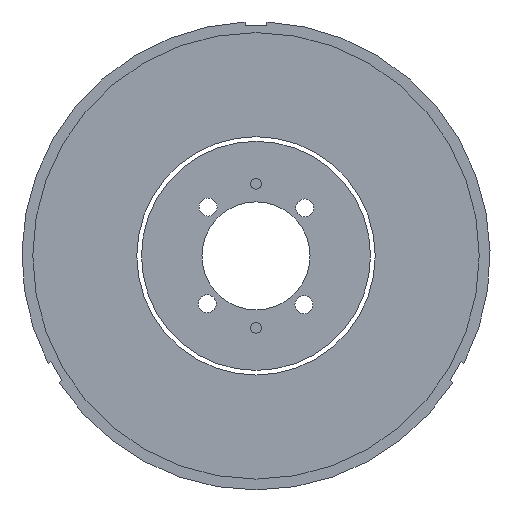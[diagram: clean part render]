
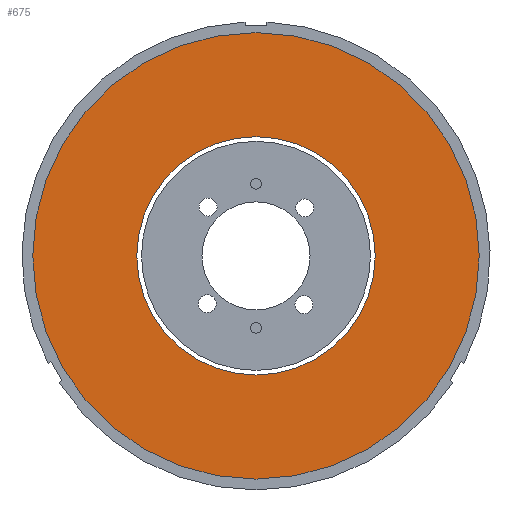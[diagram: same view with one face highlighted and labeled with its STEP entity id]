
A CAD part, front view. The second image highlights one B-rep face of the part: STEP entity #675.
In plain terms, the highlighted planar face has unit normal (0, -1, 0).
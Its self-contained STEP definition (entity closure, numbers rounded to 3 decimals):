
#23 = EDGE_CURVE ( 'NONE', #1005, #2489, #2790, .T. ) ;
#97 = VERTEX_POINT ( 'NONE', #2917 ) ;
#124 = PLANE ( 'NONE',  #1511 ) ;
#215 = EDGE_CURVE ( 'NONE', #887, #97, #2217, .T. ) ;
#383 = DIRECTION ( 'NONE',  ( 0., 1., 0. ) ) ;
#526 = DIRECTION ( 'NONE',  ( 0., 1., 0. ) ) ;
#537 = AXIS2_PLACEMENT_3D ( 'NONE', #2252, #1449, #2496 ) ;
#663 = EDGE_LOOP ( 'NONE', ( #1372, #3213 ) ) ;
#675 = ADVANCED_FACE ( 'NONE', ( #2005, #3344 ), #124, .F. ) ;
#720 = DIRECTION ( 'NONE',  ( 0., 1., 0. ) ) ;
#887 = VERTEX_POINT ( 'NONE', #2835 ) ;
#1005 = VERTEX_POINT ( 'NONE', #2697 ) ;
#1106 = CARTESIAN_POINT ( 'NONE',  ( 4.221, 8.563, 24.49 ) ) ;
#1244 = AXIS2_PLACEMENT_3D ( 'NONE', #1950, #383, #2153 ) ;
#1248 = CARTESIAN_POINT ( 'NONE',  ( 4.221, 8.563, 24.49 ) ) ;
#1372 = ORIENTED_EDGE ( 'NONE', *, *, #2004, .T. ) ;
#1449 = DIRECTION ( 'NONE',  ( 0., 1., 0. ) ) ;
#1500 = DIRECTION ( 'NONE',  ( 0., 0., 1. ) ) ;
#1511 = AXIS2_PLACEMENT_3D ( 'NONE', #1248, #720, #2248 ) ;
#1752 = EDGE_LOOP ( 'NONE', ( #3183, #2062 ) ) ;
#1810 = DIRECTION ( 'NONE',  ( 0., 1., 0. ) ) ;
#1950 = CARTESIAN_POINT ( 'NONE',  ( 4.221, 8.563, 24.49 ) ) ;
#2004 = EDGE_CURVE ( 'NONE', #97, #887, #2734, .T. ) ;
#2005 = FACE_BOUND ( 'NONE', #663, .T. ) ;
#2014 = AXIS2_PLACEMENT_3D ( 'NONE', #2814, #1810, #1500 ) ;
#2062 = ORIENTED_EDGE ( 'NONE', *, *, #2656, .F. ) ;
#2153 = DIRECTION ( 'NONE',  ( 0., 0., 1. ) ) ;
#2190 = DIRECTION ( 'NONE',  ( 0., 0., 1. ) ) ;
#2217 = CIRCLE ( 'NONE', #537, 16.55 ) ;
#2248 = DIRECTION ( 'NONE',  ( 1., 0., 0. ) ) ;
#2252 = CARTESIAN_POINT ( 'NONE',  ( 4.221, 8.563, 24.49 ) ) ;
#2489 = VERTEX_POINT ( 'NONE', #3326 ) ;
#2496 = DIRECTION ( 'NONE',  ( 0., 0., 1. ) ) ;
#2656 = EDGE_CURVE ( 'NONE', #2489, #1005, #2798, .T. ) ;
#2697 = CARTESIAN_POINT ( 'NONE',  ( 4.221, 8.563, -6.51 ) ) ;
#2734 = CIRCLE ( 'NONE', #1244, 16.55 ) ;
#2790 = CIRCLE ( 'NONE', #2014, 31. ) ;
#2798 = CIRCLE ( 'NONE', #3382, 31. ) ;
#2814 = CARTESIAN_POINT ( 'NONE',  ( 4.221, 8.563, 24.49 ) ) ;
#2835 = CARTESIAN_POINT ( 'NONE',  ( 4.221, 8.563, 41.04 ) ) ;
#2917 = CARTESIAN_POINT ( 'NONE',  ( 4.221, 8.563, 7.94 ) ) ;
#3183 = ORIENTED_EDGE ( 'NONE', *, *, #23, .F. ) ;
#3213 = ORIENTED_EDGE ( 'NONE', *, *, #215, .T. ) ;
#3326 = CARTESIAN_POINT ( 'NONE',  ( 4.221, 8.563, 55.49 ) ) ;
#3344 = FACE_OUTER_BOUND ( 'NONE', #1752, .T. ) ;
#3382 = AXIS2_PLACEMENT_3D ( 'NONE', #1106, #526, #2190 ) ;
